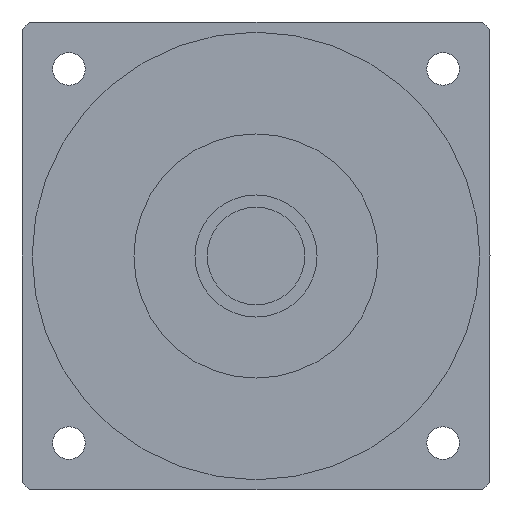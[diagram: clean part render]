
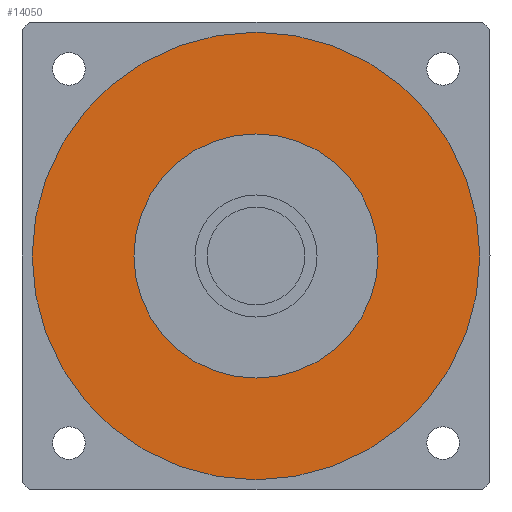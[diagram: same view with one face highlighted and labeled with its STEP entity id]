
A CAD part, left-side view. The second image highlights one B-rep face of the part: STEP entity #14050.
In plain terms, the highlighted planar face has unit normal (-1, 0, 0) as drawn and (0, 0, -1) by its records, which use the part's own axes.
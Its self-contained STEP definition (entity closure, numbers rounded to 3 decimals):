
#13470=CARTESIAN_POINT('',(55.,0.,-61.9));
#13480=VERTEX_POINT('',#13470);
#13570=CARTESIAN_POINT('',(-55.,0.,-61.9));
#13580=VERTEX_POINT('',#13570);
#13610=CARTESIAN_POINT('',(0.,0.,
-61.9));
#13620=DIRECTION('',(0.,0.,1.));
#13630=DIRECTION('',(0.,1.,0.));
#13640=AXIS2_PLACEMENT_3D('',#13610,#13620,#13630);
#13650=CIRCLE('',#13640,55.);
#13660=CARTESIAN_POINT('',(0.,55.,-61.9));
#13670=VERTEX_POINT('',#13660);
#13680=EDGE_CURVE('',#13670,#13580,#13650,.T.);
#13700=EDGE_CURVE('',#13480,#13670,#13650,.T.);
#13750=CARTESIAN_POINT('',(0.,0.,
-61.9));
#13760=DIRECTION('',(0.,0.,1.));
#13770=DIRECTION('',(-1.,0.,0.));
#13780=AXIS2_PLACEMENT_3D('',#13750,#13760,#13770);
#13790=PLANE('',#13780);
#13800=ORIENTED_EDGE('',*,*,#13680,.F.);
#13810=EDGE_CURVE('',#13580,#13480,#13650,.T.);
#13820=ORIENTED_EDGE('',*,*,#13810,.F.);
#13830=ORIENTED_EDGE('',*,*,#13700,.F.);
#13840=EDGE_LOOP('',(#13830,#13820,#13800));
#13850=FACE_OUTER_BOUND('',#13840,.T.);
#13860=CARTESIAN_POINT('',(0.,0.,
-61.9));
#13870=DIRECTION('',(0.,0.,1.));
#13880=DIRECTION('',(0.,1.,0.));
#13890=AXIS2_PLACEMENT_3D('',#13860,#13870,#13880);
#13900=CIRCLE('',#13890,30.);
#13910=CARTESIAN_POINT('',(-30.,0.,-61.9));
#13920=VERTEX_POINT('',#13910);
#13930=CARTESIAN_POINT('',(30.,0.,-61.9));
#13940=VERTEX_POINT('',#13930);
#13950=EDGE_CURVE('',#13920,#13940,#13900,.T.);
#13960=ORIENTED_EDGE('',*,*,#13950,.T.);
#13970=CARTESIAN_POINT('',(0.,30.,-61.9));
#13980=VERTEX_POINT('',#13970);
#13990=EDGE_CURVE('',#13980,#13920,#13900,.T.);
#14000=ORIENTED_EDGE('',*,*,#13990,.T.);
#14010=EDGE_CURVE('',#13940,#13980,#13900,.T.);
#14020=ORIENTED_EDGE('',*,*,#14010,.T.);
#14030=EDGE_LOOP('',(#14020,#14000,#13960));
#14040=FACE_BOUND('',#14030,.T.);
#14050=ADVANCED_FACE('',(#13850,#14040),#13790,.F.);
